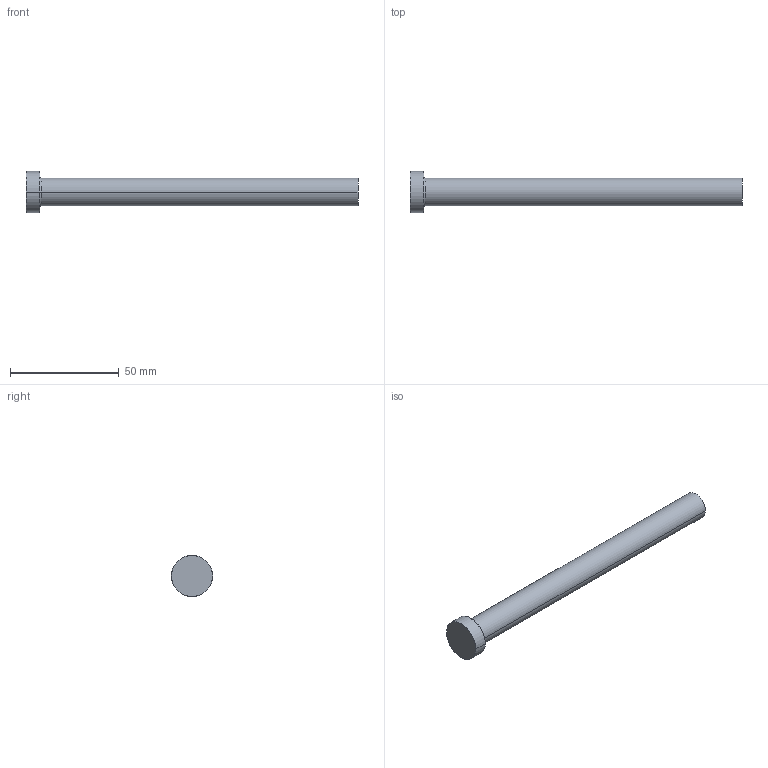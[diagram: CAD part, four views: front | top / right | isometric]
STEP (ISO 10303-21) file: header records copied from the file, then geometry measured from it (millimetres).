
FILE_DESCRIPTION (( 'STEP AP214' ), '1' );
FILE_NAME ('P33-6.STEP', '2020-03-12T10:58:30', ( '' ), ( '' ), 'SwSTEP 2.0', 'SolidWorks 2018', '' );
FILE_SCHEMA (( 'AUTOMOTIVE_DESIGN' ));
Length unit declared in the file: inch
Products named in the file (1): P33-6
Bounding box: 152.4 x 19.05 x 19.05 mm (x, y, z)
Volume: 20293.3 mm3; surface area: 6753.8 mm2
Topology: 1 solids, 1 shells, 13 faces, 24 edges, 14 vertices
Faces by surface type: cone 4, cylinder 4, plane 3, torus 2
Entity records: 366 total; most frequent: DIRECTION 68, CARTESIAN_POINT 52, ORIENTED_EDGE 48, AXIS2_PLACEMENT_3D 30, EDGE_CURVE 24, CIRCLE 16, EDGE_LOOP 14, VERTEX_POINT 14
